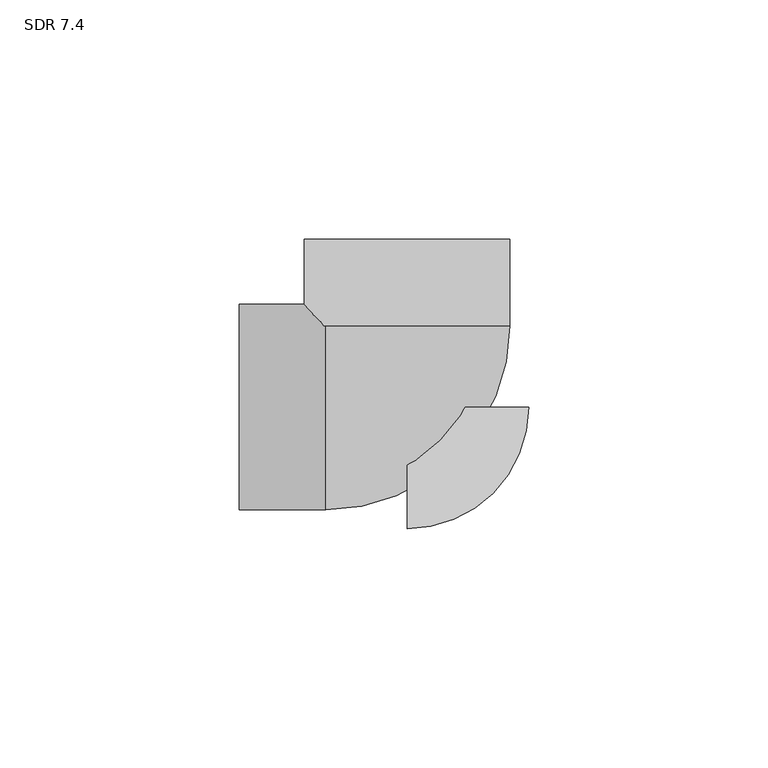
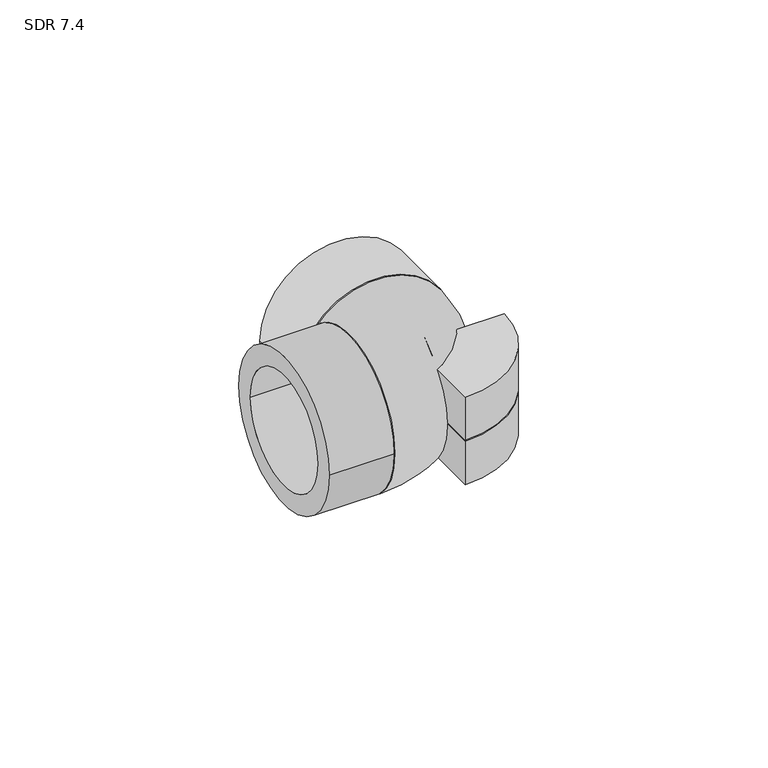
"""IFC4 building model written with IfcOpenShell, lengths in millimetres: pipe fitting geometry, Aquatherm - Elbow Socket : SDR 7.4."""

from ifc_helpers import new_model, si_unit, point, frame, origin, origin_with_axes, origin_2d, place, context, project, spatial, polyline, circle_curve, ellipse_curve, trimmed, segment, composite_curve, outline, extrude, source, transform, mapped, element, save
from ifc_brep_helpers import plane_surface, revolved_surface, advanced_brep


def sdr_7_4_c13e345f(model_context):
    return source(origin(), model_context, "Body", "SolidModel", [
        extrude(outline(composite_curve([segment(polyline([(0.0, -25.4), (0.0, 0.0), (25.4, 0.0)]), True, "CONTINUOUS"), segment(trimmed(circle_curve(origin_2d(), 25.4), [point((25.4, 0.0))], [point((0.0, -25.4))], False, "CARTESIAN"), True, "CONTINUOUS")], self_intersect=False)), frame((0.0, 0.0, -12.7), z_axis=(0.0, 0.0, 1.0), x_axis=(1.0, 0.0, 0.0)), (0.0, 0.0, 1.0), 12.7),
        extrude(outline(composite_curve([segment(trimmed(circle_curve(origin_2d(), 25.4), [point((25.4, 0.0))], [point((0.0, -25.4))], False, "CARTESIAN"), True, "CONTINUOUS"), segment(polyline([(0.0, -25.4), (0.0, 0.0), (25.4, 0.0)]), True, "CONTINUOUS")], self_intersect=False)), origin_with_axes(), (0.0, 0.0, 1.0), 12.7),
        extrude(outline(composite_curve([segment(trimmed(circle_curve(origin_2d(), 21.463), [point((0.0, 21.463))], [point((0.0, -21.463))], False, "CARTESIAN"), True, "CONTINUOUS"), segment(trimmed(circle_curve(origin_2d(), 21.463), [point((0.0, -21.463))], [point((0.0, 21.463))], False, "CARTESIAN"), True, "CONTINUOUS")], self_intersect=False), holes=[composite_curve([segment(trimmed(circle_curve(origin_2d(), 16.002), [point((0.0, 16.002))], [point((0.0, -16.002))], True, "CARTESIAN"), True, "CONTINUOUS"), segment(trimmed(circle_curve(origin_2d(), 16.002), [point((0.0, -16.002))], [point((0.0, 16.002))], True, "CARTESIAN"), True, "CONTINUOUS")], self_intersect=False)]), frame((0.0, 17.018, 0.0), z_axis=(0.0, 1.0, 0.0), x_axis=(0.0, 0.0, 1.0)), (0.0, 0.0, 1.0), 18.034),
        advanced_brep(
        [(-17.018, 17.018, -13.0785337), (-17.018, 17.018, 13.0785337), (-17.018, -11.557, 0.0), (-17.018, 11.557, 0.0), (11.557, 17.018, 0.0), (-11.557, 17.018, 0.0)],
        [
            (0, 1, circle_curve(frame((-17.018, 0.0, 0.0), z_axis=(-1.0, 0.0, 0.0), x_axis=(0.0, 1.0, 0.0)), 21.463)),
            (1, 0),
            (2, 3, circle_curve(frame((-17.018, 0.0, 0.0), z_axis=(1.0, 0.0, 0.0), x_axis=(0.0, 1.0, 0.0)), 11.557)),
            (3, 2, circle_curve(frame((-17.018, 0.0, 0.0), z_axis=(1.0, 0.0, 0.0), x_axis=(0.0, 1.0, 0.0)), 11.557)),
            (1, 0, circle_curve(frame((0.0, 17.018, 0.0), z_axis=(0.0, 1.0, 0.0), x_axis=(-1.0, 0.0, 0.0)), 21.463)),
            (4, 5, circle_curve(frame((0.0, 17.018, 0.0), z_axis=(0.0, -1.0, 0.0), x_axis=(-1.0, 0.0, 0.0)), 11.557)),
            (5, 4, circle_curve(frame((0.0, 17.018, 0.0), z_axis=(0.0, -1.0, 0.0), x_axis=(-1.0, 0.0, 0.0)), 11.557)),
            (5, 3, circle_curve(frame((-17.018, 17.018, 0.0), z_axis=(0.0, 0.0, -1.0), x_axis=(0.0, -1.0, 0.0)), 5.461)),
            (2, 4, circle_curve(frame((-17.018, 17.018, 0.0), z_axis=(0.0, 0.0, 1.0), x_axis=(0.0, -1.0, 0.0)), 28.575)),
        ],
        [
            plane_surface(frame((-17.018, 17.018, 70.2285337), z_axis=(-1.0, 0.0, 0.0), x_axis=(0.0, -1.0, 0.0))),
            plane_surface(frame((-17.018, 17.018, 70.2285337), z_axis=(0.0, 1.0, 0.0), x_axis=(1.0, 0.0, 0.0))),
            revolved_surface(trimmed(ellipse_curve(frame((-17.018, 0.0, 0.0), z_axis=(1.0, 0.0, 0.0), x_axis=(0.0, 1.0, 0.0)), 21.463, 21.463), [point((-17.018, 17.018, 13.0785337))], [point((-17.018, 17.018, -13.0785337))], True, "CARTESIAN"), (-17.018, 17.018, 70.2285337), (0.0, 0.0, -1.0)),
            revolved_surface(trimmed(ellipse_curve(frame((-17.018, 0.0, 0.0), z_axis=(-1.0, 0.0, 0.0), x_axis=(0.0, 1.0, 0.0)), 11.557, 11.557), [point((-17.018, 11.557, 0.0))], [point((-17.018, -11.557, 0.0))], True, "CARTESIAN"), (-17.018, 17.018, 70.2285337), (0.0, 0.0, -1.0)),
            revolved_surface(trimmed(ellipse_curve(frame((-17.018, 0.0, 0.0), z_axis=(-1.0, 0.0, 0.0), x_axis=(0.0, 1.0, 0.0)), 11.557, 11.557), [point((-17.018, -11.557, 0.0))], [point((-17.018, 11.557, 0.0))], True, "CARTESIAN"), (-17.018, 17.018, 70.2285337), (0.0, 0.0, -1.0)),
        ],
        [
            (0, [[1, 2], [3, 4]]),
            (1, [[5, -2], [6, 7]]),
            (2, [[-1, -5]]),
            (3, [[8, -3, 9, -7]]),
            (4, [[-9, -4, -8, -6]]),
        ],
    ),
        extrude(outline(composite_curve([segment(trimmed(circle_curve(origin_2d(), 21.463), [point((21.463, 0.0))], [point((-21.463, 0.0))], False, "CARTESIAN"), True, "CONTINUOUS"), segment(trimmed(circle_curve(origin_2d(), 21.463), [point((-21.463, 0.0))], [point((21.463, 0.0))], False, "CARTESIAN"), True, "CONTINUOUS")], self_intersect=False), holes=[composite_curve([segment(trimmed(circle_curve(origin_2d(), 16.002), [point((16.002, 0.0))], [point((-16.002, 0.0))], True, "CARTESIAN"), True, "CONTINUOUS"), segment(trimmed(circle_curve(origin_2d(), 16.002), [point((-16.002, 0.0))], [point((16.002, 0.0))], True, "CARTESIAN"), True, "CONTINUOUS")], self_intersect=False)]), frame((-35.052, 0.0, 0.0), z_axis=(1.0, 0.0, 0.0), x_axis=(0.0, 1.0, 0.0)), (0.0, 0.0, 1.0), 18.034),
    ])


if __name__ == "__main__":
    model = new_model("IFC4")
    model_context = context("Model", 3, world=origin())
    ifc_project = project(units=[si_unit("LENGTHUNIT", "METRE", prefix="MILLI")], contexts=[model_context])
    site = spatial("IfcSite", under=ifc_project)
    building = spatial("IfcBuilding", under=site)
    placement = place(None, origin())
    sdr_7_4_shape = sdr_7_4_c13e345f(model_context)
    element("IfcPipeFitting", 1, ObjectType="Aquatherm - Elbow Socket : SDR 7.4", at=placement, inside=building, context=model_context, shape_type="MappedRepresentation", body=[
        mapped(sdr_7_4_shape, transform((0.0, 0.0, 0.0), x_axis=(1.0, 0.0, 0.0), y_axis=(0.0, 1.0, 0.0), z_axis=(0.0, 0.0, 1.0))),
    ])
    save(model, "model.ifc")
